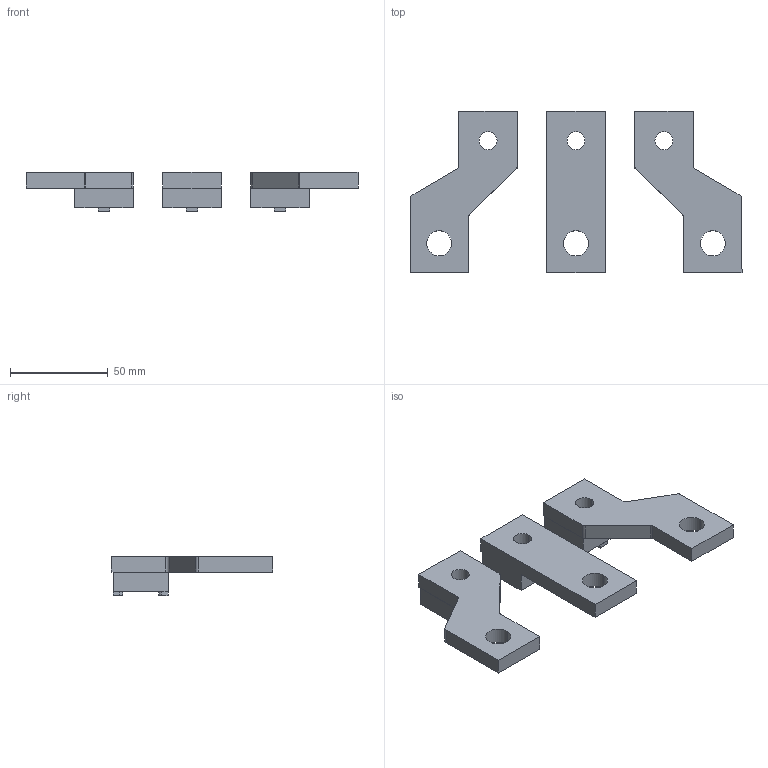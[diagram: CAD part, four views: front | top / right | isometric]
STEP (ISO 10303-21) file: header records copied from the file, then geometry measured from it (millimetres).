
FILE_DESCRIPTION (( 'STEP AP214' ), '1' );
FILE_NAME ('Ðàñøèðèòåëè ïîëþñîâ OptiMat D400, D630 äëèííûé (íèæíèå).STEP', '2023-04-03T03:41:49', ( '' ), ( '' ), 'SwSTEP 2.0', 'SolidWorks 2018', '' );
FILE_SCHEMA (( 'AUTOMOTIVE_DESIGN' ));
Length unit declared in the file: millimetre
Products named in the file (1): Ðàñøèðèòåëè ïîëþñîâ OptiMat D400, D630 äëèííûé (íèæíèå)
Bounding box: 169.8 x 82.5 x 20 mm (x, y, z)
Volume: 79971.3 mm3; surface area: 26159.6 mm2
Topology: 3 solids, 3 shells, 111 faces, 292 edges, 190 vertices
Faces by surface type: plane 79, cylinder 32
Entity records: 3478 total; most frequent: CARTESIAN_POINT 594, ORIENTED_EDGE 584, DIRECTION 584, EDGE_CURVE 292, VECTOR 224, LINE 224, VERTEX_POINT 190, AXIS2_PLACEMENT_3D 180
